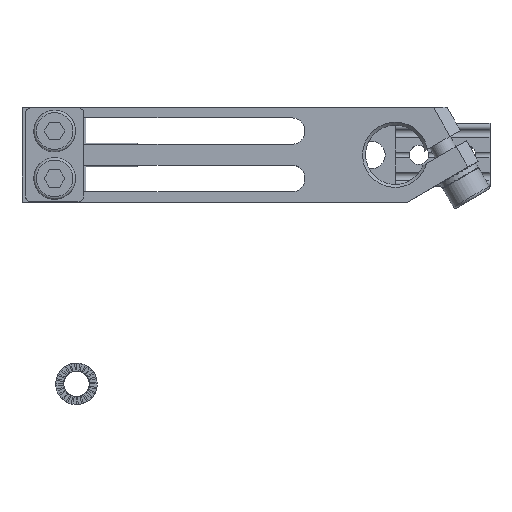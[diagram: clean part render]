
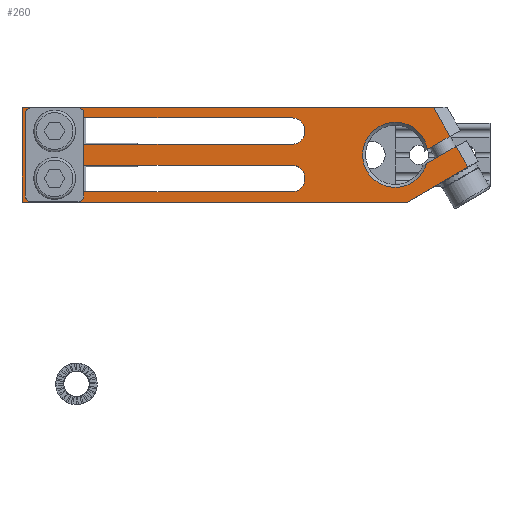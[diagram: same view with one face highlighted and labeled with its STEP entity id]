
A CAD part, top view. The second image highlights one B-rep face of the part: STEP entity #260.
In plain terms, the highlighted planar face has unit normal (0, 0, 1).
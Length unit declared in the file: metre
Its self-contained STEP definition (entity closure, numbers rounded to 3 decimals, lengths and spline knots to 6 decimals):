
#260 = ADVANCED_FACE( '', ( #611, #612, #613 ), #614, .F. );
#611 = FACE_BOUND( '', #1278, .T. );
#612 = FACE_BOUND( '', #1279, .T. );
#613 = FACE_OUTER_BOUND( '', #1280, .T. );
#614 = PLANE( '', #1281 );
#1278 = EDGE_LOOP( '', ( #2051, #2052, #2053, #2054 ) );
#1279 = EDGE_LOOP( '', ( #2055, #2056, #2057, #2058 ) );
#1280 = EDGE_LOOP( '', ( #2059, #2060, #2061, #2062, #2063, #2064, #2065, #2066, #2067 ) );
#1281 = AXIS2_PLACEMENT_3D( '', #2068, #2069, #2070 );
#2051 = ORIENTED_EDGE( '', *, *, #4668, .F. );
#2052 = ORIENTED_EDGE( '', *, *, #4669, .F. );
#2053 = ORIENTED_EDGE( '', *, *, #4670, .F. );
#2054 = ORIENTED_EDGE( '', *, *, #4671, .F. );
#2055 = ORIENTED_EDGE( '', *, *, #4672, .F. );
#2056 = ORIENTED_EDGE( '', *, *, #4649, .F. );
#2057 = ORIENTED_EDGE( '', *, *, #4673, .F. );
#2058 = ORIENTED_EDGE( '', *, *, #4674, .F. );
#2059 = ORIENTED_EDGE( '', *, *, #4634, .F. );
#2060 = ORIENTED_EDGE( '', *, *, #4656, .T. );
#2061 = ORIENTED_EDGE( '', *, *, #4641, .F. );
#2062 = ORIENTED_EDGE( '', *, *, #4667, .T. );
#2063 = ORIENTED_EDGE( '', *, *, #4675, .F. );
#2064 = ORIENTED_EDGE( '', *, *, #4629, .F. );
#2065 = ORIENTED_EDGE( '', *, *, #4612, .F. );
#2066 = ORIENTED_EDGE( '', *, *, #4653, .T. );
#2067 = ORIENTED_EDGE( '', *, *, #4664, .T. );
#2068 = CARTESIAN_POINT( '', ( -0.063, 0.008, 0.008 ) );
#2069 = DIRECTION( '', ( 0., 0., -1. ) );
#2070 = DIRECTION( '', ( -1., 0., 0. ) );
#4612 = EDGE_CURVE( '', #5462, #5464, #5465, .T. );
#4629 = EDGE_CURVE( '', #5464, #5496, #5497, .T. );
#4634 = EDGE_CURVE( '', #5503, #5505, #5506, .T. );
#4641 = EDGE_CURVE( '', #5518, #5519, #5520, .T. );
#4649 = EDGE_CURVE( '', #5531, #5533, #5534, .T. );
#4653 = EDGE_CURVE( '', #5462, #5539, #5541, .T. );
#4656 = EDGE_CURVE( '', #5503, #5519, #5545, .T. );
#4664 = EDGE_CURVE( '', #5539, #5505, #5555, .T. );
#4667 = EDGE_CURVE( '', #5518, #5558, #5560, .T. );
#4668 = EDGE_CURVE( '', #5561, #5562, #5563, .T. );
#4669 = EDGE_CURVE( '', #5564, #5561, #5565, .T. );
#4670 = EDGE_CURVE( '', #5566, #5564, #5567, .T. );
#4671 = EDGE_CURVE( '', #5562, #5566, #5568, .T. );
#4672 = EDGE_CURVE( '', #5533, #5569, #5570, .T. );
#4673 = EDGE_CURVE( '', #5571, #5531, #5572, .T. );
#4674 = EDGE_CURVE( '', #5569, #5571, #5573, .T. );
#4675 = EDGE_CURVE( '', #5496, #5558, #5574, .T. );
#5462 = VERTEX_POINT( '', #6841 );
#5464 = VERTEX_POINT( '', #6844 );
#5465 = LINE( '', #6845, #6846 );
#5496 = VERTEX_POINT( '', #6891 );
#5497 = LINE( '', #6892, #6893 );
#5503 = VERTEX_POINT( '', #6901 );
#5505 = VERTEX_POINT( '', #6906 );
#5506 = LINE( '', #6907, #6908 );
#5518 = VERTEX_POINT( '', #6924 );
#5519 = VERTEX_POINT( '', #6925 );
#5520 = LINE( '', #6926, #6927 );
#5531 = VERTEX_POINT( '', #6946 );
#5533 = VERTEX_POINT( '', #6949 );
#5534 = CIRCLE( '', #6950, 0.00225 );
#5539 = VERTEX_POINT( '', #6957 );
#5541 = LINE( '', #6960, #6961 );
#5545 = CIRCLE( '', #6967, 0.0055 );
#5555 = LINE( '', #6983, #6984 );
#5558 = VERTEX_POINT( '', #6988 );
#5560 = LINE( '', #6991, #6992 );
#5561 = VERTEX_POINT( '', #6993 );
#5562 = VERTEX_POINT( '', #6994 );
#5563 = LINE( '', #6995, #6996 );
#5564 = VERTEX_POINT( '', #6997 );
#5565 = CIRCLE( '', #6998, 0.00225 );
#5566 = VERTEX_POINT( '', #6999 );
#5567 = LINE( '', #7000, #7001 );
#5568 = CIRCLE( '', #7002, 0.00225 );
#5569 = VERTEX_POINT( '', #7003 );
#5570 = LINE( '', #7004, #7005 );
#5571 = VERTEX_POINT( '', #7006 );
#5572 = LINE( '', #7007, #7008 );
#5573 = CIRCLE( '', #7009, 0.00225 );
#5574 = LINE( '', #7010, #7011 );
#6841 = CARTESIAN_POINT( '', ( 0.002, -0.008, 0.008 ) );
#6844 = CARTESIAN_POINT( '', ( -0.063, -0.008, 0.008 ) );
#6845 = CARTESIAN_POINT( '', ( 0.014, -0.008, 0.008 ) );
#6846 = VECTOR( '', #8785, 1. );
#6891 = CARTESIAN_POINT( '', ( -0.063, 0.008, 0.008 ) );
#6892 = CARTESIAN_POINT( '', ( -0.063, -0.008, 0.008 ) );
#6893 = VECTOR( '', #8812, 1. );
#6901 = CARTESIAN_POINT( '', ( 0.005298, -0.001477, 0.008 ) );
#6906 = CARTESIAN_POINT( '', ( 0.010268, 0.001392, 0.008 ) );
#6907 = CARTESIAN_POINT( '', ( 0.00334, -0.002608, 0.008 ) );
#6908 = VECTOR( '', #8818, 1. );
#6924 = CARTESIAN_POINT( '', ( 0.009268, 0.003124, 0.008 ) );
#6925 = CARTESIAN_POINT( '', ( 0.005425, 0.000906, 0.008 ) );
#6926 = CARTESIAN_POINT( '', ( 0.011, 0.004124, 0.008 ) );
#6927 = VECTOR( '', #8829, 1. );
#6946 = CARTESIAN_POINT( '', ( -0.0175, -0.00625, 0.008 ) );
#6949 = CARTESIAN_POINT( '', ( -0.0175, -0.00175, 0.008 ) );
#6950 = AXIS2_PLACEMENT_3D( '', #8836, #8837, #8838 );
#6957 = CARTESIAN_POINT( '', ( 0.012268, -0.002072, 0.008 ) );
#6960 = CARTESIAN_POINT( '', ( -0.039822, -0.032146, 0.008 ) );
#6961 = VECTOR( '', #8842, 1. );
#6967 = AXIS2_PLACEMENT_3D( '', #8845, #8846, #8847 );
#6983 = CARTESIAN_POINT( '', ( -0.01091, 0.038074, 0.008 ) );
#6984 = VECTOR( '', #8857, 1. );
#6988 = CARTESIAN_POINT( '', ( 0.006453, 0.008, 0.008 ) );
#6991 = CARTESIAN_POINT( '', ( -0.01091, 0.038074, 0.008 ) );
#6992 = VECTOR( '', #8860, 1. );
#6993 = CARTESIAN_POINT( '', ( -0.0175, 0.00625, 0.008 ) );
#6994 = CARTESIAN_POINT( '', ( -0.0575, 0.00625, 0.008 ) );
#6995 = CARTESIAN_POINT( '', ( -0.0175, 0.00625, 0.008 ) );
#6996 = VECTOR( '', #8861, 1. );
#6997 = CARTESIAN_POINT( '', ( -0.0175, 0.00175, 0.008 ) );
#6998 = AXIS2_PLACEMENT_3D( '', #8862, #8863, #8864 );
#6999 = CARTESIAN_POINT( '', ( -0.0575, 0.00175, 0.008 ) );
#7000 = CARTESIAN_POINT( '', ( -0.0175, 0.00175, 0.008 ) );
#7001 = VECTOR( '', #8865, 1. );
#7002 = AXIS2_PLACEMENT_3D( '', #8866, #8867, #8868 );
#7003 = CARTESIAN_POINT( '', ( -0.0575, -0.00175, 0.008 ) );
#7004 = CARTESIAN_POINT( '', ( -0.0175, -0.00175, 0.008 ) );
#7005 = VECTOR( '', #8869, 1. );
#7006 = CARTESIAN_POINT( '', ( -0.0575, -0.00625, 0.008 ) );
#7007 = CARTESIAN_POINT( '', ( -0.0175, -0.00625, 0.008 ) );
#7008 = VECTOR( '', #8870, 1. );
#7009 = AXIS2_PLACEMENT_3D( '', #8871, #8872, #8873 );
#7010 = CARTESIAN_POINT( '', ( -0.063, 0.008, 0.008 ) );
#7011 = VECTOR( '', #8874, 1. );
#8785 = DIRECTION( '', ( -1., 0., 0. ) );
#8812 = DIRECTION( '', ( 0., 1., 0. ) );
#8818 = DIRECTION( '', ( 0.866, 0.5, 0. ) );
#8829 = DIRECTION( '', ( -0.866, -0.5, 0. ) );
#8836 = CARTESIAN_POINT( '', ( -0.0175, -0.004, 0.008 ) );
#8837 = DIRECTION( '', ( 0., 0., 1. ) );
#8838 = DIRECTION( '', ( 0., -1., 0. ) );
#8842 = DIRECTION( '', ( 0.866, 0.5, 0. ) );
#8845 = CARTESIAN_POINT( '', ( 0., 0., 0.008 ) );
#8846 = DIRECTION( '', ( 0., 0., -1. ) );
#8847 = DIRECTION( '', ( -1., 0., 0. ) );
#8857 = DIRECTION( '', ( -0.5, 0.866, 0. ) );
#8860 = DIRECTION( '', ( -0.5, 0.866, 0. ) );
#8861 = DIRECTION( '', ( -1., 0., 0. ) );
#8862 = CARTESIAN_POINT( '', ( -0.0175, 0.004, 0.008 ) );
#8863 = DIRECTION( '', ( 0., 0., 1. ) );
#8864 = DIRECTION( '', ( 0., -1., 0. ) );
#8865 = DIRECTION( '', ( 1., 0., 0. ) );
#8866 = CARTESIAN_POINT( '', ( -0.0575, 0.004, 0.008 ) );
#8867 = DIRECTION( '', ( 0., 0., 1. ) );
#8868 = DIRECTION( '', ( 0., 1., 0. ) );
#8869 = DIRECTION( '', ( -1., 0., 0. ) );
#8870 = DIRECTION( '', ( 1., 0., 0. ) );
#8871 = CARTESIAN_POINT( '', ( -0.0575, -0.004, 0.008 ) );
#8872 = DIRECTION( '', ( 0., 0., 1. ) );
#8873 = DIRECTION( '', ( 0., 1., 0. ) );
#8874 = DIRECTION( '', ( 1., 0., 0. ) );
